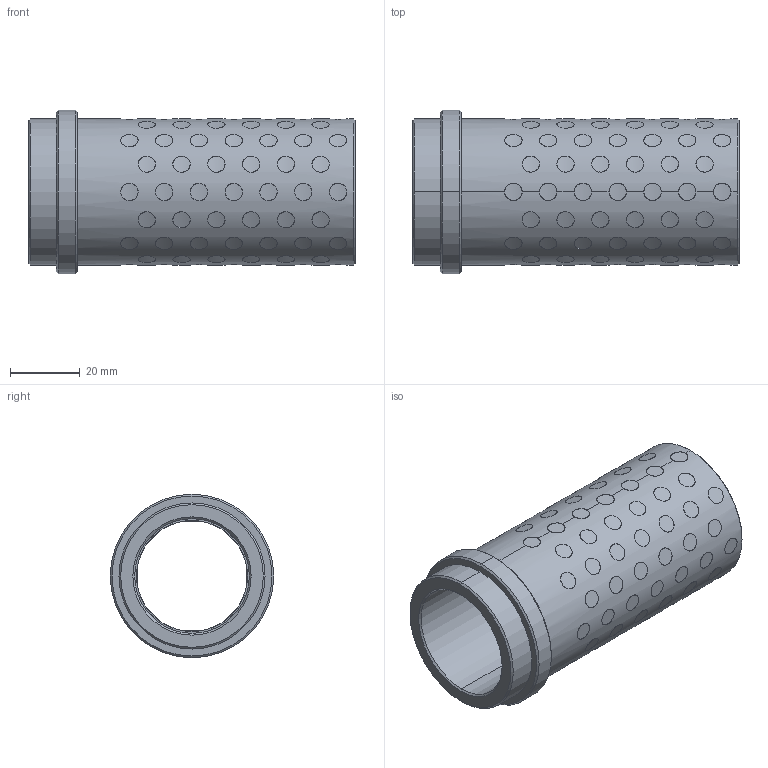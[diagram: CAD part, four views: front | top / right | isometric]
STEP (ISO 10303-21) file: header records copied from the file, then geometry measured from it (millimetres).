
FILE_DESCRIPTION((''),'2;1');
FILE_NAME('G31232086','2017-12-30T',('MANU'),(''),'PRO/ENGINEER BY PARAMETRIC TECHNOLOGY CORPORATION, 2012130','PRO/ENGINEER BY PARAMETRIC TECHNOLOGY CORPORATION, 2012130','');
FILE_SCHEMA(('CONFIG_CONTROL_DESIGN'));
Length unit declared in the file: millimetre
Products named in the file (1): G31232086
Bounding box: 94 x 47 x 47 mm (x, y, z)
Volume: 55204.7 mm3; surface area: 39908.3 mm2
Topology: 105 solids, 105 shells, 651 faces, 1386 edges, 920 vertices
Faces by surface type: cylinder 634, cone 12, plane 5
Entity records: 32272 total; most frequent: CARTESIAN_POINT 19599, ORIENTED_EDGE 2772, DIRECTION 1832, EDGE_CURVE 1386, VERTEX_POINT 920, B_SPLINE_CURVE_WITH_KNOTS 888, EDGE_LOOP 836, AXIS2_PLACEMENT_3D 683
